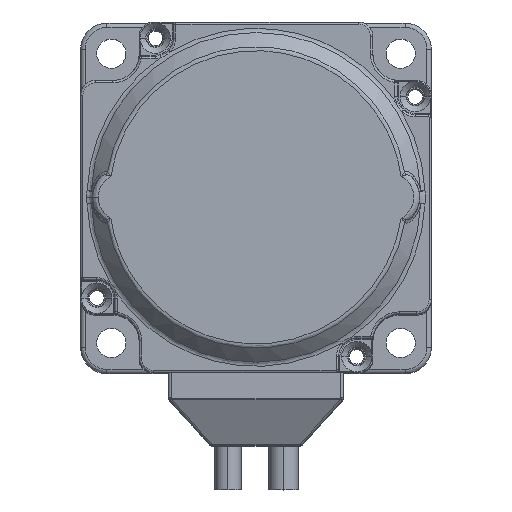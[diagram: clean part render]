
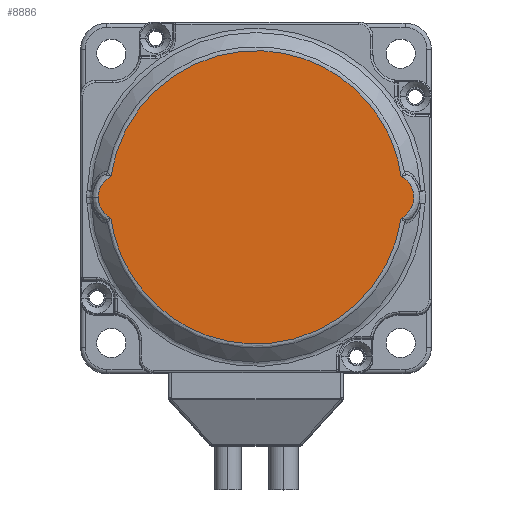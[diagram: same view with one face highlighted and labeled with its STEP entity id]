
A CAD part, top view. The second image highlights one B-rep face of the part: STEP entity #8886.
In plain terms, the highlighted planar face has unit normal (0, 0, 1).
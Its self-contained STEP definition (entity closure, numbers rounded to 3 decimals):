
#379 = CARTESIAN_POINT ( 'NONE',  ( 24.833, -3.556, 21.8 ) ) ;
#610 =( BOUNDED_CURVE ( )  B_SPLINE_CURVE ( 3, ( #379, #14984, #34621, #6170 ),
 .UNSPECIFIED., .F., .T. ) 
 B_SPLINE_CURVE_WITH_KNOTS ( ( 4, 4 ),
 ( 0., 1. ),
 .UNSPECIFIED. ) 
 CURVE ( )  GEOMETRIC_REPRESENTATION_ITEM ( )  RATIONAL_B_SPLINE_CURVE ( ( 1., 0.428, 0.428, 1. ) ) 
 REPRESENTATION_ITEM ( '' )  );
#1276 =( BOUNDED_CURVE ( )  B_SPLINE_CURVE ( 3, ( #15635, #24217, #21467, #32443 ),
 .UNSPECIFIED., .F., .F. ) 
 B_SPLINE_CURVE_WITH_KNOTS ( ( 4, 4 ),
 ( 0., 1. ),
 .UNSPECIFIED. ) 
 CURVE ( )  GEOMETRIC_REPRESENTATION_ITEM ( )  RATIONAL_B_SPLINE_CURVE ( ( 1., 0.903, 0.903, 1. ) ) 
 REPRESENTATION_ITEM ( '' )  );
#3996 = CARTESIAN_POINT ( 'NONE',  ( -24.833, -3.556, 21.8 ) ) ;
#4147 = ORIENTED_EDGE ( 'NONE', *, *, #7896, .F. ) ;
#4345 = CARTESIAN_POINT ( 'NONE',  ( -24.833, 3.556, 21.8 ) ) ;
#6167 = ORIENTED_EDGE ( 'NONE', *, *, #8411, .F. ) ;
#6170 = CARTESIAN_POINT ( 'NONE',  ( -24.833, -3.556, 21.8 ) ) ;
#7105 = ORIENTED_EDGE ( 'NONE', *, *, #23030, .F. ) ;
#7896 = EDGE_CURVE ( 'NONE', #21265, #30063, #27076, .T. ) ;
#8411 = EDGE_CURVE ( 'NONE', #30063, #23303, #610, .T. ) ;
#8886 = ADVANCED_FACE ( 'NONE', ( #35944 ), #11148, .F. ) ;
#9202 = EDGE_CURVE ( 'NONE', #13824, #34614, #1276, .T. ) ;
#9377 = ORIENTED_EDGE ( 'NONE', *, *, #10960, .F. ) ;
#9877 = CARTESIAN_POINT ( 'NONE',  ( -19.348, 41.861, 21.8 ) ) ;
#10132 = CARTESIAN_POINT ( 'NONE',  ( 19.348, 41.861, 21.8 ) ) ;
#10663 = DIRECTION ( 'NONE',  ( -1., 0., 0. ) ) ;
#10960 = EDGE_CURVE ( 'NONE', #34614, #21265, #16837, .T. ) ;
#11148 = PLANE ( 'NONE',  #18889 ) ;
#13343 = CARTESIAN_POINT ( 'NONE',  ( 28.131, -1.855, 21.8 ) ) ;
#13824 = VERTEX_POINT ( 'NONE', #25816 ) ;
#14057 = ORIENTED_EDGE ( 'NONE', *, *, #9202, .F. ) ;
#14100 =( BOUNDED_CURVE ( )  B_SPLINE_CURVE ( 3, ( #21189, #33641, #16477, #19323 ),
 .UNSPECIFIED., .F., .F. ) 
 B_SPLINE_CURVE_WITH_KNOTS ( ( 4, 4 ),
 ( 0., 1. ),
 .UNSPECIFIED. ) 
 CURVE ( )  GEOMETRIC_REPRESENTATION_ITEM ( )  RATIONAL_B_SPLINE_CURVE ( ( 1., 0.903, 0.903, 1. ) ) 
 REPRESENTATION_ITEM ( '' )  );
#14984 = CARTESIAN_POINT ( 'NONE',  ( 19.348, -41.861, 21.8 ) ) ;
#15635 = CARTESIAN_POINT ( 'NONE',  ( -27., 0., 21.8 ) ) ;
#16281 = CARTESIAN_POINT ( 'NONE',  ( 24.833, 3.556, 21.8 ) ) ;
#16477 = CARTESIAN_POINT ( 'NONE',  ( -27., -1.538, 21.8 ) ) ;
#16555 = CARTESIAN_POINT ( 'NONE',  ( 0., 0., 21.8 ) ) ;
#16837 =( BOUNDED_CURVE ( )  B_SPLINE_CURVE ( 3, ( #4345, #9877, #10132, #24250 ),
 .UNSPECIFIED., .F., .F. ) 
 B_SPLINE_CURVE_WITH_KNOTS ( ( 4, 4 ),
 ( 0., 1. ),
 .UNSPECIFIED. ) 
 CURVE ( )  GEOMETRIC_REPRESENTATION_ITEM ( )  RATIONAL_B_SPLINE_CURVE ( ( 1., 0.428, 0.428, 1. ) ) 
 REPRESENTATION_ITEM ( '' )  );
#18889 = AXIS2_PLACEMENT_3D ( 'NONE', #16555, #19156, #10663 ) ;
#19156 = DIRECTION ( 'NONE',  ( 0., 0., -1. ) ) ;
#19323 = CARTESIAN_POINT ( 'NONE',  ( -27., 0., 21.8 ) ) ;
#21189 = CARTESIAN_POINT ( 'NONE',  ( -24.833, -3.556, 21.8 ) ) ;
#21265 = VERTEX_POINT ( 'NONE', #31084 ) ;
#21467 = CARTESIAN_POINT ( 'NONE',  ( -26.2, 2.851, 21.8 ) ) ;
#23030 = EDGE_CURVE ( 'NONE', #23303, #13824, #14100, .T. ) ;
#23303 = VERTEX_POINT ( 'NONE', #3996 ) ;
#24217 = CARTESIAN_POINT ( 'NONE',  ( -27., 1.538, 21.8 ) ) ;
#24250 = CARTESIAN_POINT ( 'NONE',  ( 24.833, 3.556, 21.8 ) ) ;
#25816 = CARTESIAN_POINT ( 'NONE',  ( -27., 0., 21.8 ) ) ;
#26808 = CARTESIAN_POINT ( 'NONE',  ( -24.833, 3.556, 21.8 ) ) ;
#27076 =( BOUNDED_CURVE ( )  B_SPLINE_CURVE ( 3, ( #16281, #30354, #13343, #33176 ),
 .UNSPECIFIED., .F., .F. ) 
 B_SPLINE_CURVE_WITH_KNOTS ( ( 4, 4 ),
 ( 0., 1. ),
 .UNSPECIFIED. ) 
 CURVE ( )  GEOMETRIC_REPRESENTATION_ITEM ( )  RATIONAL_B_SPLINE_CURVE ( ( 1., 0.639, 0.639, 1. ) ) 
 REPRESENTATION_ITEM ( '' )  );
#30063 = VERTEX_POINT ( 'NONE', #36362 ) ;
#30354 = CARTESIAN_POINT ( 'NONE',  ( 28.131, 1.855, 21.8 ) ) ;
#31084 = CARTESIAN_POINT ( 'NONE',  ( 24.833, 3.556, 21.8 ) ) ;
#32443 = CARTESIAN_POINT ( 'NONE',  ( -24.833, 3.556, 21.8 ) ) ;
#33176 = CARTESIAN_POINT ( 'NONE',  ( 24.833, -3.556, 21.8 ) ) ;
#33641 = CARTESIAN_POINT ( 'NONE',  ( -26.2, -2.851, 21.8 ) ) ;
#34614 = VERTEX_POINT ( 'NONE', #26808 ) ;
#34621 = CARTESIAN_POINT ( 'NONE',  ( -19.348, -41.861, 21.8 ) ) ;
#35944 = FACE_OUTER_BOUND ( 'NONE', #36426, .T. ) ;
#36362 = CARTESIAN_POINT ( 'NONE',  ( 24.833, -3.556, 21.8 ) ) ;
#36426 = EDGE_LOOP ( 'NONE', ( #14057, #7105, #6167, #4147, #9377 ) ) ;
